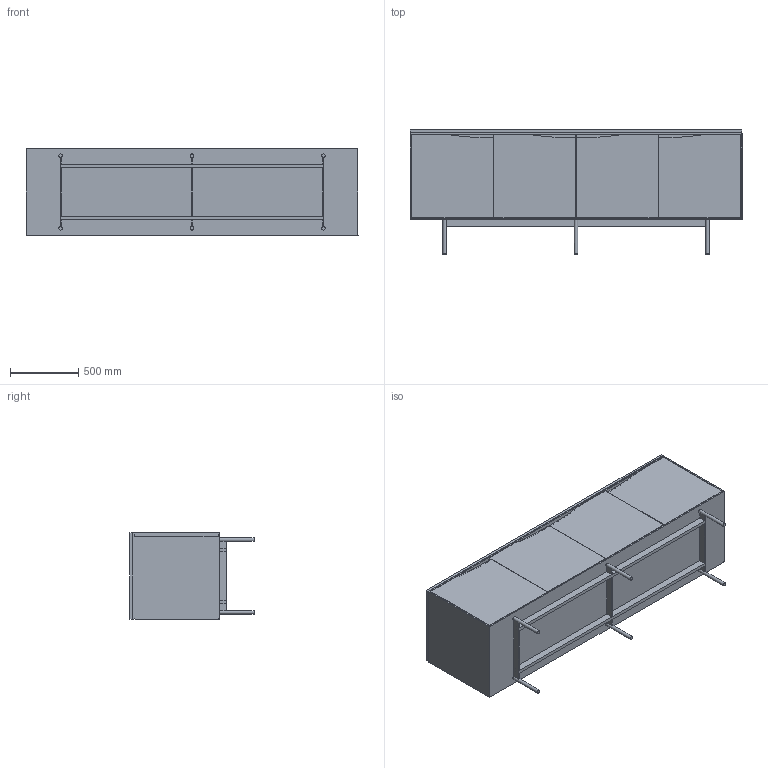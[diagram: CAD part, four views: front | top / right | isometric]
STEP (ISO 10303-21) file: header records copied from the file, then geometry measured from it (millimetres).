
FILE_DESCRIPTION(/* description */ ('','CAx-IF Rec.Pracs.---Representation and Presentation of Product Manufacturing Information (PMI)---4.0---2014-10-13'),/* implementation_level */ '2;1');
FILE_NAME(/* name */ 'CREDENZA STORAGE_PARAGON 4.stp',/* time_stamp */ '2024-12-07T18:31:36-05:00',/* author */ ('mbowman'),/* organization */ (''),/* preprocessor_version */ 'ST-DEVELOPER v19.2',/* originating_system */ 'Autodesk Inventor 2023',/* authorisation */ '');
FILE_SCHEMA (('AP242_MANAGED_MODEL_BASED_3D_ENGINEERING_MIM_LF { 1 0 10303 442 1 1 4 }'));
Length unit declared in the file: inch
Products named in the file (2): PARAGON^CREDENZA 4_35x96 4 DOORS W TOP-PARTS SOLID; PARAGON^CREDENZA 4_35x96 4 DOORS W TOP-PARTS SOLID_1
Assembly tree (1 placements, depth 2):
  PARAGON^CREDENZA 4_35x96 4 DOORS W TOP-PARTS SOLID
    PARAGON^CREDENZA 4_35x96 4 DOORS W TOP-PARTS SOLID_1
Bounding box: 2438.4 x 911.23 x 635 mm (x, y, z)
Volume: 219891583.6 mm3; surface area: 23009160.2 mm2
Topology: 18 solids, 18 shells, 174 faces, 414 edges, 276 vertices
Faces by surface type: plane 156, cylinder 14, bspline 4
Full cylindrical faces by diameter (mm): 25.4 x6
Entity records: 6171 total; most frequent: CARTESIAN_POINT 1368, DIRECTION 868, ORIENTED_EDGE 828, EDGE_CURVE 414, LINE 362, VECTOR 362, VERTEX_POINT 276, STYLED_ITEM 270
